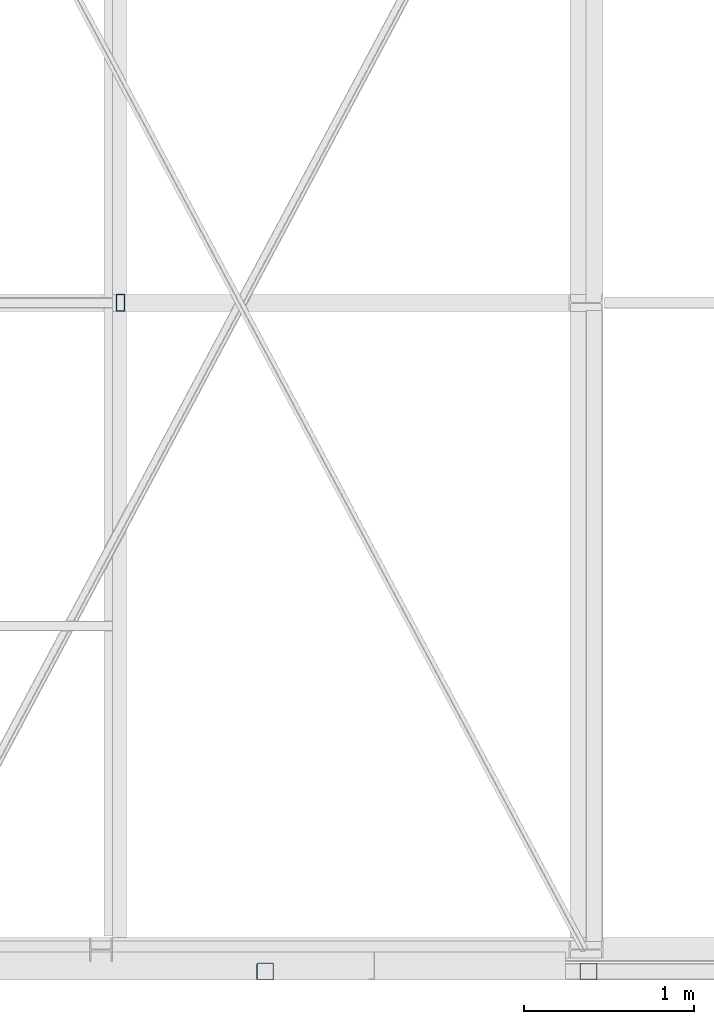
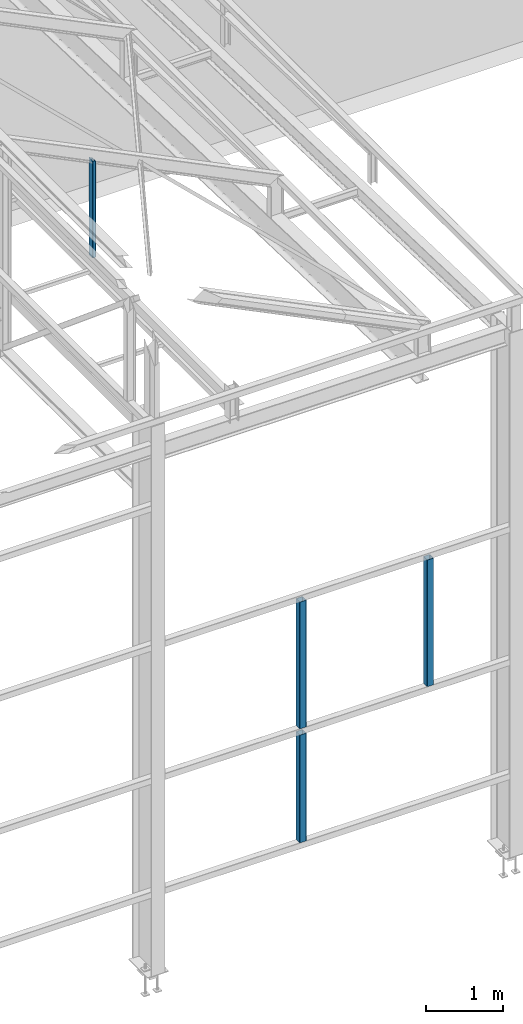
# One storey, part 12 of 123: 4 columns, 4 elements without a shape of their own.
"""IFC2X3 building model written with IfcOpenShell, lengths in millimetres."""

from ifc_helpers import new_model, si_unit, frame, origin_with_axes, origin_2d_with_axis, place, context, subcontext, project, spatial, hollow_rectangle, extrude, clip, halfspace, material, type_object, element, aggregate, save


model = new_model("IFC2X3")

# Units and contexts
model_context = context("Model", 3, precision=1e-05, world=origin_with_axes())
body_context = subcontext(model_context, "Body", "Model", "MODEL_VIEW")
ifc_project = project(units=[si_unit("LENGTHUNIT", "METRE", prefix="MILLI"), si_unit("AREAUNIT", "SQUARE_METRE"), si_unit("VOLUMEUNIT", "CUBIC_METRE"), si_unit("MASSUNIT", "GRAM", prefix="KILO"), si_unit("TIMEUNIT", "SECOND"), si_unit("PLANEANGLEUNIT", "RADIAN"), si_unit("SOLIDANGLEUNIT", "STERADIAN"), si_unit("THERMODYNAMICTEMPERATUREUNIT", "DEGREE_CELSIUS"), si_unit("LUMINOUSINTENSITYUNIT", "LUMEN")], contexts=[model_context])

# Site, building, storey
site_placement = place(None, origin_with_axes())
site = spatial("IfcSite", under=ifc_project, at=site_placement, Name="Undefined", CompositionType="ELEMENT")
building_placement = place(site_placement, origin_with_axes())
building = spatial("IfcBuilding", under=site, at=building_placement, Name="Undefined", CompositionType="ELEMENT")
storey_placement = place(building_placement, origin_with_axes())
storey = spatial("IfcBuildingStorey", under=building, at=storey_placement, Name="Undefined", CompositionType="ELEMENT", Elevation=0.0)

# Assembly, column
assembly_1_placement = place(storey_placement, origin_with_axes())
assembly_1 = element("IfcElementAssembly", 1, at=assembly_1_placement, inside=storey, Name="Steel Assembly", AssemblyPlace="NOTDEFINED", PredefinedType="RIGID_FRAME")
ifc_material = material(Name="STEEL/S235-E24")
column_type_1 = type_object("IfcColumnType", Name="TUBE-R-100*50*3", PredefinedType="NOTDEFINED")
column_1_placement = place(assembly_1_placement, frame((35593.9917140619, 3800.0, 8240.0), z_axis=(0.0, 0.0, 1.0), x_axis=(0.0, -1.0, 0.0)))
column_1 = element("IfcColumn", 2, at=column_1_placement, type_object=column_type_1, material=ifc_material, Name="SUSPENTE", ObjectType="TUBE-R-100*50*3", context=body_context, shape_type="Clipping", body=[
    clip(extrude(hollow_rectangle(XDim=50.0, YDim=100.0, WallThickness=3.0, InnerFilletRadius=3.0, OuterFilletRadius=6.0, at=origin_2d_with_axis()), frame((0.0, 0.0, 1535.3690648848), z_axis=(0.0, 0.0, -1.0), x_axis=(0.0, 1.0, 0.0)), (0.0, 0.0, 1.0), 1535.4), halfspace(frame((0.0, -38.9853790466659, 1542.15556004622), z_axis=(0.0, -0.442968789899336, -0.896537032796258), x_axis=(1.0, 0.0, 0.0)), True)),
])
aggregate(assembly_1, [column_1])

assembly_2_placement = place(storey_placement, origin_with_axes())
assembly_2 = element("IfcElementAssembly", 3, at=assembly_2_placement, inside=storey, Name="Steel Assembly", AssemblyPlace="NOTDEFINED", PredefinedType="RIGID_FRAME")
column_type_2 = type_object("IfcColumnType", Name="TUBE-C-100*100*4", PredefinedType="NOTDEFINED")
column_2_placement = place(assembly_2_placement, frame((38345.0025828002, -129.999716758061, 2899.99999999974), z_axis=(0.0, 0.0, 1.0), x_axis=(0.0, 1.0, 0.0)))
column_2 = element("IfcColumn", 4, at=column_2_placement, type_object=column_type_2, material=ifc_material, Name="MONTANT", ObjectType="TUBE-C-100*100*4", context=body_context, shape_type="SweptSolid", body=[
    extrude(hollow_rectangle(XDim=100.0, YDim=100.0, WallThickness=4.0, InnerFilletRadius=4.0, OuterFilletRadius=8.0, at=origin_2d_with_axis()), frame((0.0, 0.0, 2000.0), z_axis=(0.0, 0.0, -1.0), x_axis=(0.0, 1.0, 0.0)), (0.0, 0.0, 1.0), 2000.0),
])
aggregate(assembly_2, [column_2])

assembly_3_placement = place(storey_placement, origin_with_axes())
assembly_3 = element("IfcElementAssembly", 5, at=assembly_3_placement, inside=storey, Name="Steel Assembly", AssemblyPlace="NOTDEFINED", PredefinedType="RIGID_FRAME")
column_3_placement = place(assembly_3_placement, frame((36445.0025828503, -129.999730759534, 2899.99999999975), z_axis=(0.0, 0.0, 1.0), x_axis=(0.0, 1.0, 0.0)))
column_3 = element("IfcColumn", 6, at=column_3_placement, type_object=column_type_2, material=ifc_material, Name="MONTANT", ObjectType="TUBE-C-100*100*4", context=body_context, shape_type="SweptSolid", body=[
    extrude(hollow_rectangle(XDim=100.0, YDim=100.0, WallThickness=4.0, InnerFilletRadius=4.0, OuterFilletRadius=8.0, at=origin_2d_with_axis()), frame((0.0, 0.0, 2000.0), z_axis=(0.0, 0.0, -1.0), x_axis=(0.0, 1.0, 0.0)), (0.0, 0.0, 1.0), 2000.0),
])
aggregate(assembly_3, [column_3])

assembly_4_placement = place(storey_placement, origin_with_axes())
assembly_4 = element("IfcElementAssembly", 7, at=assembly_4_placement, inside=storey, Name="Steel Assembly", AssemblyPlace="NOTDEFINED", PredefinedType="RIGID_FRAME")
column_4_placement = place(assembly_4_placement, frame((36445.0025828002, -129.99973075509, 1099.99999999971), z_axis=(0.0, 0.0, 1.0), x_axis=(0.0, 1.0, 0.0)))
column_4 = element("IfcColumn", 8, at=column_4_placement, type_object=column_type_2, material=ifc_material, Name="MONTANT", ObjectType="TUBE-C-100*100*4", context=body_context, shape_type="SweptSolid", body=[
    extrude(hollow_rectangle(XDim=100.0, YDim=100.0, WallThickness=4.0, InnerFilletRadius=4.0, OuterFilletRadius=8.0, at=origin_2d_with_axis()), frame((0.0, 0.0, 1700.0), z_axis=(0.0, 0.0, -1.0), x_axis=(0.0, 1.0, 0.0)), (0.0, 0.0, 1.0), 1700.0),
])
aggregate(assembly_4, [column_4])

save(model, "model.ifc")
